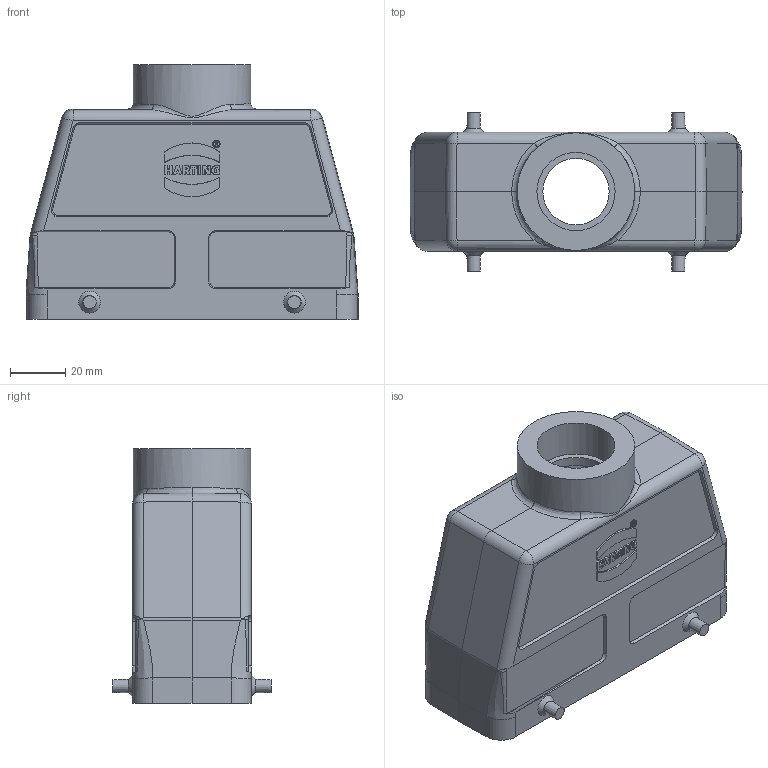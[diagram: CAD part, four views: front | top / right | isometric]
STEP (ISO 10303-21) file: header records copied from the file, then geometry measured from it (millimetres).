
FILE_DESCRIPTION(/* description */ (''),/* implementation_level */ '2;1');
FILE_NAME(/* name */ '100724631ugm000_d.stp',/* time_stamp */ '2024-02-28T13:19:29+01:00',/* author */ (''),/* organization */ (''),/* preprocessor_version */ 'ST-DEVELOPER v19.3',/* originating_system */ 'SIEMENS PLM Software NX2212.6000',/* authorisation */ '');
FILE_SCHEMA (('AUTOMOTIVE_DESIGN { 1 0 10303 214 3 1 1 1 }'));
Length unit declared in the file: millimetre
Products named in the file (1): 100724631ugm000_d
Bounding box: 120 x 57.2 x 92 mm (x, y, z)
Volume: 90099.7 mm3; surface area: 55411.6 mm2
Topology: 1 solids, 1 shells, 291 faces, 748 edges, 478 vertices
Faces by surface type: plane 168, cone 44, cylinder 43, bspline 26, torus 6, sphere 4
Full cylindrical faces by diameter (mm): 3 x4, 24 x1, 28.3 x1, 42.5 x1
Entity records: 10333 total; most frequent: CARTESIAN_POINT 2906, ORIENTED_EDGE 1408, DIRECTION 1303, EDGE_CURVE 704, VERTEX_POINT 471, LINE 445, VECTOR 445, AXIS2_PLACEMENT_3D 429
